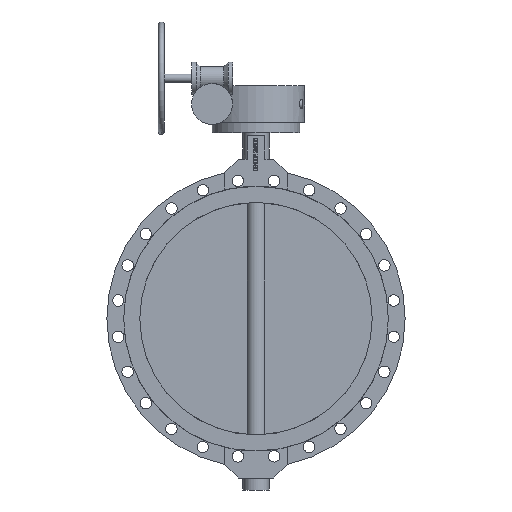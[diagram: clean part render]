
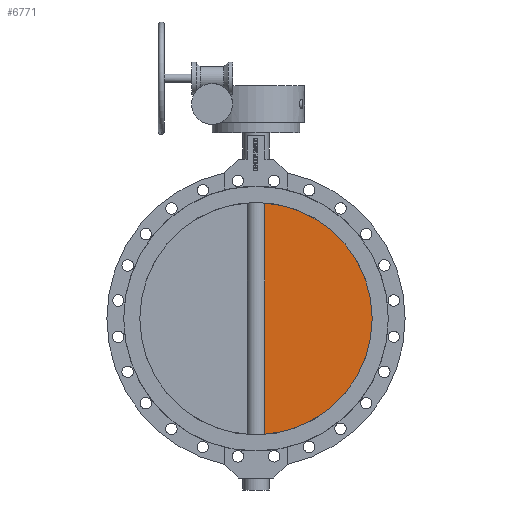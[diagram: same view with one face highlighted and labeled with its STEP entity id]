
A CAD part, left-side view. The second image highlights one B-rep face of the part: STEP entity #6771.
In plain terms, the highlighted planar face has unit normal (-1, 0, 0).
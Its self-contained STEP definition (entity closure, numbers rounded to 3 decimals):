
#6771=ADVANCED_FACE('',(#12459),#12461,.F.);
#12459=FACE_BOUND('',#12460,.T.);
#12460=EDGE_LOOP('',(#16496,#16497));
#12461=PLANE('',#12462);
#12462=AXIS2_PLACEMENT_3D('',#12463,#12464,#12465);
#12463=CARTESIAN_POINT('',(-15.,0.,0.));
#12464=DIRECTION('',(1.,0.,0.));
#12465=DIRECTION('',(0.,1.,0.));
#16496=ORIENTED_EDGE('',*,*,#18781,.T.);
#16497=ORIENTED_EDGE('',*,*,#18367,.T.);
#18367=EDGE_CURVE('',#21649,#21647,#21650,.F.);
#18781=EDGE_CURVE('',#21647,#21649,#22273,.T.);
#21647=VERTEX_POINT('',#32055);
#21649=VERTEX_POINT('',#32130);
#21650=CIRCLE('',#32131,397.35);
#22273=LINE('',#33967,#33968);
#32055=CARTESIAN_POINT('',(-15.,-29.394,396.261));
#32130=CARTESIAN_POINT('',(-15.,-29.394,-396.261));
#32131=AXIS2_PLACEMENT_3D('',#32132,#32133,#32134);
#32132=CARTESIAN_POINT('',(-15.,0.,0.));
#32133=DIRECTION('',(1.,0.,0.));
#32134=DIRECTION('',(0.,-0.074,0.997));
#33967=CARTESIAN_POINT('',(-15.,-29.394,396.261));
#33968=VECTOR('',#33969,1.);
#33969=DIRECTION('',(0.,0.,-1.));
